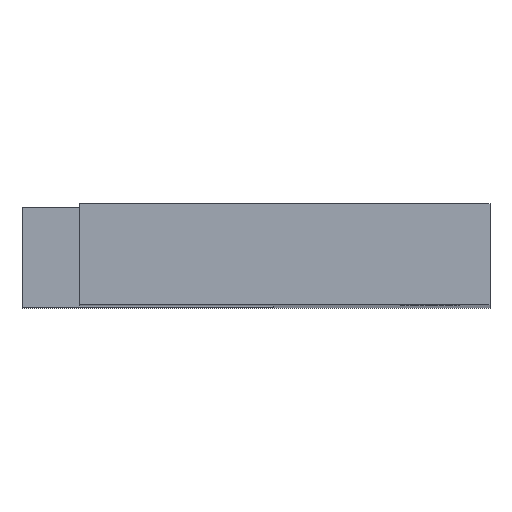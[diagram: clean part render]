
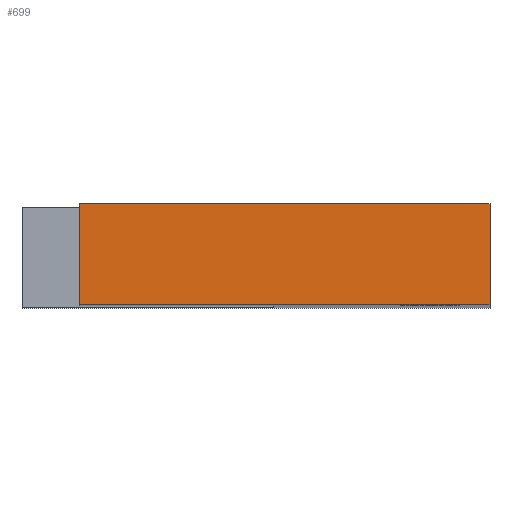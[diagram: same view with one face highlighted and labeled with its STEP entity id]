
A CAD part, top view. The second image highlights one B-rep face of the part: STEP entity #699.
In plain terms, the highlighted planar face has unit normal (0, 0, 1).
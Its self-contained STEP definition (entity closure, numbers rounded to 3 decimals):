
#72 = PLANE('',#73);
#73 = AXIS2_PLACEMENT_3D('',#74,#75,#76);
#74 = CARTESIAN_POINT('',(233.067,70.,-38.346));
#75 = DIRECTION('',(-0.,-1.,-0.));
#76 = DIRECTION('',(0.,0.,-1.));
#100 = PLANE('',#101);
#101 = AXIS2_PLACEMENT_3D('',#102,#103,#104);
#102 = CARTESIAN_POINT('',(256.797,84.,-163.626));
#103 = DIRECTION('',(-1.,0.,0.));
#104 = DIRECTION('',(0.,0.,1.));
#126 = PLANE('',#127);
#127 = AXIS2_PLACEMENT_3D('',#128,#129,#130);
#128 = CARTESIAN_POINT('',(233.067,84.,-38.346));
#129 = DIRECTION('',(-0.,-1.,-0.));
#130 = DIRECTION('',(0.,0.,-1.));
#219 = VERTEX_POINT('',#220);
#220 = CARTESIAN_POINT('',(256.797,70.,96.49));
#241 = EDGE_CURVE('',#242,#219,#244,.T.);
#242 = VERTEX_POINT('',#243);
#243 = CARTESIAN_POINT('',(256.797,84.,96.49));
#244 = SURFACE_CURVE('',#245,(#249,#256),.PCURVE_S1.);
#245 = LINE('',#246,#247);
#246 = CARTESIAN_POINT('',(256.797,84.,96.49));
#247 = VECTOR('',#248,1.);
#248 = DIRECTION('',(0.,-1.,0.));
#249 = PCURVE('',#100,#250);
#250 = DEFINITIONAL_REPRESENTATION('',(#251),#255);
#251 = LINE('',#252,#253);
#252 = CARTESIAN_POINT('',(260.116,0.));
#253 = VECTOR('',#254,1.);
#254 = DIRECTION('',(0.,-1.));
#255 = ( GEOMETRIC_REPRESENTATION_CONTEXT(2) 
PARAMETRIC_REPRESENTATION_CONTEXT() REPRESENTATION_CONTEXT('2D SPACE',''
  ) );
#256 = PCURVE('',#257,#262);
#257 = PLANE('',#258);
#258 = AXIS2_PLACEMENT_3D('',#259,#260,#261);
#259 = CARTESIAN_POINT('',(256.797,84.,96.49));
#260 = DIRECTION('',(-0.,-0.,-1.));
#261 = DIRECTION('',(-1.,0.,0.));
#262 = DEFINITIONAL_REPRESENTATION('',(#263),#267);
#263 = LINE('',#264,#265);
#264 = CARTESIAN_POINT('',(0.,0.));
#265 = VECTOR('',#266,1.);
#266 = DIRECTION('',(0.,-1.));
#267 = ( GEOMETRIC_REPRESENTATION_CONTEXT(2) 
PARAMETRIC_REPRESENTATION_CONTEXT() REPRESENTATION_CONTEXT('2D SPACE',''
  ) );
#295 = EDGE_CURVE('',#242,#296,#298,.T.);
#296 = VERTEX_POINT('',#297);
#297 = CARTESIAN_POINT('',(199.797,84.,96.49));
#298 = SURFACE_CURVE('',#299,(#303,#310),.PCURVE_S1.);
#299 = LINE('',#300,#301);
#300 = CARTESIAN_POINT('',(256.797,84.,96.49));
#301 = VECTOR('',#302,1.);
#302 = DIRECTION('',(-1.,0.,0.));
#303 = PCURVE('',#126,#304);
#304 = DEFINITIONAL_REPRESENTATION('',(#305),#309);
#305 = LINE('',#306,#307);
#306 = CARTESIAN_POINT('',(-134.836,23.73));
#307 = VECTOR('',#308,1.);
#308 = DIRECTION('',(0.,-1.));
#309 = ( GEOMETRIC_REPRESENTATION_CONTEXT(2) 
PARAMETRIC_REPRESENTATION_CONTEXT() REPRESENTATION_CONTEXT('2D SPACE',''
  ) );
#310 = PCURVE('',#257,#311);
#311 = DEFINITIONAL_REPRESENTATION('',(#312),#316);
#312 = LINE('',#313,#314);
#313 = CARTESIAN_POINT('',(0.,0.));
#314 = VECTOR('',#315,1.);
#315 = DIRECTION('',(1.,0.));
#316 = ( GEOMETRIC_REPRESENTATION_CONTEXT(2) 
PARAMETRIC_REPRESENTATION_CONTEXT() REPRESENTATION_CONTEXT('2D SPACE',''
  ) );
#334 = PLANE('',#335);
#335 = AXIS2_PLACEMENT_3D('',#336,#337,#338);
#336 = CARTESIAN_POINT('',(199.797,84.,96.49));
#337 = DIRECTION('',(1.,0.,0.));
#338 = DIRECTION('',(0.,0.,-1.));
#499 = EDGE_CURVE('',#219,#500,#502,.T.);
#500 = VERTEX_POINT('',#501);
#501 = CARTESIAN_POINT('',(199.797,70.,96.49));
#502 = SURFACE_CURVE('',#503,(#507,#514),.PCURVE_S1.);
#503 = LINE('',#504,#505);
#504 = CARTESIAN_POINT('',(256.797,70.,96.49));
#505 = VECTOR('',#506,1.);
#506 = DIRECTION('',(-1.,0.,0.));
#507 = PCURVE('',#72,#508);
#508 = DEFINITIONAL_REPRESENTATION('',(#509),#513);
#509 = LINE('',#510,#511);
#510 = CARTESIAN_POINT('',(-134.836,23.73));
#511 = VECTOR('',#512,1.);
#512 = DIRECTION('',(0.,-1.));
#513 = ( GEOMETRIC_REPRESENTATION_CONTEXT(2) 
PARAMETRIC_REPRESENTATION_CONTEXT() REPRESENTATION_CONTEXT('2D SPACE',''
  ) );
#514 = PCURVE('',#257,#515);
#515 = DEFINITIONAL_REPRESENTATION('',(#516),#520);
#516 = LINE('',#517,#518);
#517 = CARTESIAN_POINT('',(0.,-14.));
#518 = VECTOR('',#519,1.);
#519 = DIRECTION('',(1.,0.));
#520 = ( GEOMETRIC_REPRESENTATION_CONTEXT(2) 
PARAMETRIC_REPRESENTATION_CONTEXT() REPRESENTATION_CONTEXT('2D SPACE',''
  ) );
#699 = ADVANCED_FACE('',(#700),#257,.F.);
#700 = FACE_BOUND('',#701,.F.);
#701 = EDGE_LOOP('',(#702,#703,#704,#725));
#702 = ORIENTED_EDGE('',*,*,#241,.T.);
#703 = ORIENTED_EDGE('',*,*,#499,.T.);
#704 = ORIENTED_EDGE('',*,*,#705,.F.);
#705 = EDGE_CURVE('',#296,#500,#706,.T.);
#706 = SURFACE_CURVE('',#707,(#711,#718),.PCURVE_S1.);
#707 = LINE('',#708,#709);
#708 = CARTESIAN_POINT('',(199.797,84.,96.49));
#709 = VECTOR('',#710,1.);
#710 = DIRECTION('',(0.,-1.,0.));
#711 = PCURVE('',#257,#712);
#712 = DEFINITIONAL_REPRESENTATION('',(#713),#717);
#713 = LINE('',#714,#715);
#714 = CARTESIAN_POINT('',(57.,0.));
#715 = VECTOR('',#716,1.);
#716 = DIRECTION('',(0.,-1.));
#717 = ( GEOMETRIC_REPRESENTATION_CONTEXT(2) 
PARAMETRIC_REPRESENTATION_CONTEXT() REPRESENTATION_CONTEXT('2D SPACE',''
  ) );
#718 = PCURVE('',#334,#719);
#719 = DEFINITIONAL_REPRESENTATION('',(#720),#724);
#720 = LINE('',#721,#722);
#721 = CARTESIAN_POINT('',(0.,0.));
#722 = VECTOR('',#723,1.);
#723 = DIRECTION('',(0.,-1.));
#724 = ( GEOMETRIC_REPRESENTATION_CONTEXT(2) 
PARAMETRIC_REPRESENTATION_CONTEXT() REPRESENTATION_CONTEXT('2D SPACE',''
  ) );
#725 = ORIENTED_EDGE('',*,*,#295,.F.);
